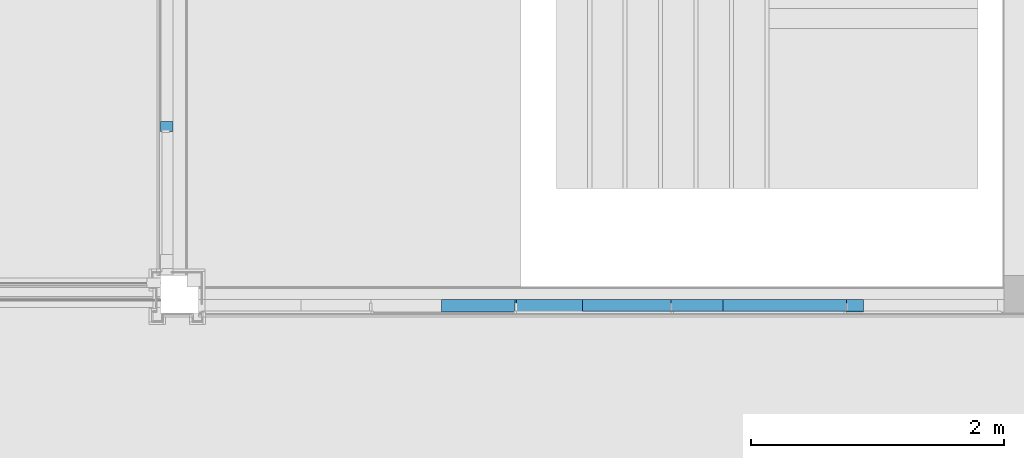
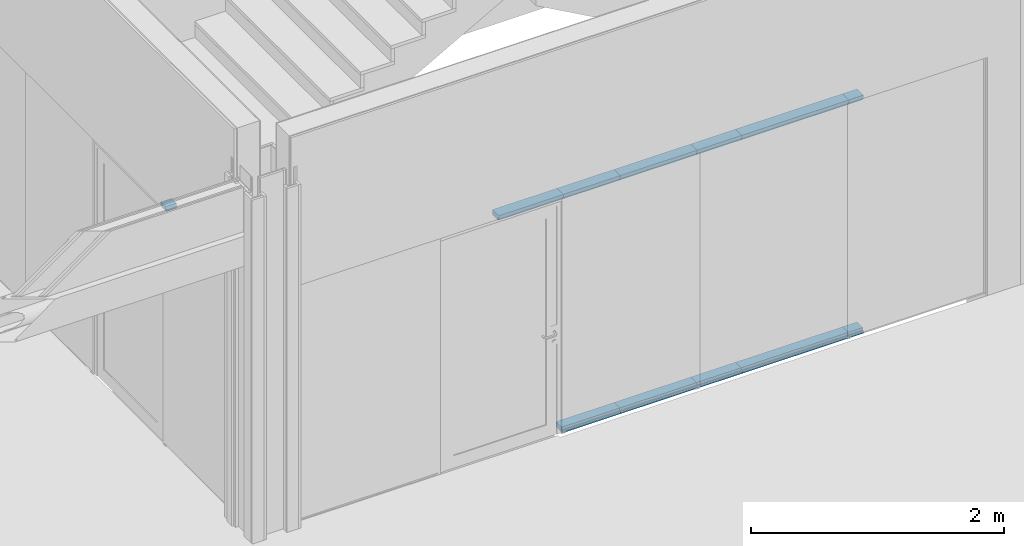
# One storey, part 47 of 139: 12 members, 2 elements without a shape of their own.
"""IFC2X3 building model written with IfcOpenShell, lengths in millimetres."""

from ifc_helpers import new_model, entity, si_unit, converted_unit, derived_unit, money_unit, direction, frame, origin_with_axes, place, context, subcontext, project, spatial, faceted_brep, material, type_object, element, aggregate, save


model = new_model("IFC2X3")

# Units and contexts
model_context = context("Model", 3, precision=0.01, world=origin_with_axes(), true_north=direction((0.0, 1.0)))
body_context = subcontext(model_context, "Body", "Model", "MODEL_VIEW")
ifc_project = project(units=[si_unit("LENGTHUNIT", "METRE", prefix="MILLI"), si_unit("AREAUNIT", "SQUARE_METRE"), si_unit("VOLUMEUNIT", "CUBIC_METRE"), converted_unit("PLANEANGLEUNIT", "DEGREE", entity("IfcPlaneAngleMeasure", 0.0174532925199), si_unit("PLANEANGLEUNIT", "RADIAN"), dimensions=[0, 0, 0, 0, 0, 0, 0]), money_unit("EUR"), converted_unit("TIMEUNIT", "Year", entity("IfcTimeMeasure", 31556926.0), si_unit("TIMEUNIT", "SECOND"), dimensions=[0, 0, 1, 0, 0, 0, 0]), si_unit("MASSUNIT", "GRAM", prefix="KILO"), si_unit("THERMODYNAMICTEMPERATUREUNIT", "DEGREE_CELSIUS"), si_unit("LUMINOUSINTENSITYUNIT", "LUMEN"), si_unit("ENERGYUNIT", "JOULE", prefix="MEGA"), derived_unit("THERMALCONDUCTANCEUNIT", [(si_unit("POWERUNIT", "WATT"), 1), (si_unit("LENGTHUNIT", "METRE"), -1), (si_unit("THERMODYNAMICTEMPERATUREUNIT", "KELVIN"), -1)]), derived_unit("SPECIFICHEATCAPACITYUNIT", [(si_unit("ENERGYUNIT", "JOULE"), 1), (si_unit("MASSUNIT", "GRAM", prefix="KILO"), -1), (si_unit("THERMODYNAMICTEMPERATUREUNIT", "KELVIN"), -1)]), derived_unit("MASSDENSITYUNIT", [(si_unit("MASSUNIT", "GRAM", prefix="KILO"), 1), (si_unit("VOLUMEUNIT", "CUBIC_METRE"), -1)])], contexts=[model_context])

# Site, building, storey
site_placement = place(None, origin_with_axes())
site = spatial("IfcSite", under=ifc_project, at=site_placement, Name="Kolde pst 67a", CompositionType="ELEMENT")
building_placement = place(site_placement, origin_with_axes())
building = spatial("IfcBuilding", under=site, at=building_placement, Name="Riigigümnaasium", CompositionType="ELEMENT")
storey_placement = place(building_placement, frame((0.0, 0.0, 4600.0), z_axis=(0.0, 0.0, 1.0), x_axis=(1.0, 0.0, 0.0)))
storey = spatial("IfcBuildingStorey", under=building, at=storey_placement, Name="2. korrus", CompositionType="ELEMENT", Elevation=4600.0)

# Curtain wall, member
curtain_wall_type = type_object("IfcCurtainWallType", Name="Curtain Wall Type", PredefinedType="NOTDEFINED")
curtain_wall_1_placement = place(storey_placement, frame((52619.9941222, 32759.7635899, -0.000120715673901), z_axis=(0.0, 0.0, 1.0), x_axis=(1.0, 0.0, 0.0)))
curtain_wall_1 = element("IfcCurtainWall", 1, at=curtain_wall_1_placement, inside=storey, type_object=curtain_wall_type, Name="KLAASSEIN")
ifc_material = material(Name="_GENEERILINE MATERJAL")
member_type = type_object("IfcMemberType", Name="Boundary Frame 50 x 100", PredefinedType="MEMBER")
member_1_placement = place(curtain_wall_1_placement, frame((0.0, -2625.0, 2300.00012072), z_axis=(0.0, -1.0, 0.0), x_axis=(0.0, 0.0, 1.0)))
member_1 = element("IfcMember", 2, at=member_1_placement, type_object=member_type, material=ifc_material, Name="RF RAAM SERV-604", ObjectType="MEMBER", context=body_context, shape_type="Brep", body=[
    faceted_brep([(-50.0, -10.0, 0.0), (-50.0, -100.0, 0.0), (-50.0, -100.0, 78.0000031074), (-50.0, -10.0, 78.0000031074), (-25.0, -10.0, 0.0), (-25.0, 0.0, 0.0), (0.0, 0.0, 0.0), (0.0, -100.0, 0.0), (0.0, -100.0, 78.0000031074), (-25.0, -10.0, 78.0000031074), (0.0, 0.0, 78.0000031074), (-25.0, 0.0, 78.0000031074)], [[[0, 1, 2, 3]], [[4, 5, 6, 7, 1, 0]], [[1, 7, 8, 2]], [[9, 3, 2, 8, 10, 11]], [[9, 4, 0, 3]], [[5, 4, 9, 11]], [[11, 10, 6, 5]], [[7, 6, 10, 8]]]),
])
aggregate(curtain_wall_1, [member_1])

# Curtain wall, members
curtain_wall_2_placement = place(storey_placement, frame((56010.5010848, 28629.9996643, -9.132059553e-06), z_axis=(0.0, 0.0, 1.0), x_axis=(1.0, 0.0, 0.0)))
curtain_wall_2 = element("IfcCurtainWall", 3, at=curtain_wall_2_placement, inside=storey, type_object=curtain_wall_type, Name="KLAASSEIN")
member_2_placement = place(curtain_wall_2_placement, frame((2026.58211334, 0.0, 0.0), z_axis=(-1.0, 0.0, 0.0), x_axis=(0.0, 0.0, 1.0)))
member_2 = element("IfcMember", 4, at=member_2_placement, type_object=member_type, material=ifc_material, Name="RF RAAM SERV-525", ObjectType="MEMBER", context=body_context, shape_type="Brep", body=[
    faceted_brep([(50.0, 10.0, 0.0), (50.0, 100.0, 0.0), (50.0, 100.0, 977.02642861), (50.0, 10.0, 977.02642861), (25.0, 10.0, 0.0), (25.0, 0.0, 0.0), (0.0, 0.0, 0.0), (0.0, 100.0, 0.0), (0.0, 100.0, 977.02642861), (25.0, 10.0, 977.02642861), (0.0, 0.0, 977.02642861), (25.0, 0.0, 977.02642861)], [[[0, 1, 2, 3]], [[4, 5, 6, 7, 1, 0]], [[1, 7, 8, 2]], [[9, 3, 2, 8, 10, 11]], [[9, 4, 0, 3]], [[5, 4, 9, 11]], [[11, 10, 6, 5]], [[7, 6, 10, 8]]]),
])
member_3_placement = place(curtain_wall_2_placement, frame((2026.58211334, 0.0, 2300.00000913), z_axis=(-1.0, 0.0, 0.0), x_axis=(0.0, 0.0, 1.0)))
member_3 = element("IfcMember", 5, at=member_3_placement, type_object=member_type, material=ifc_material, Name="RF RAAM SERV-535", ObjectType="MEMBER", context=body_context, shape_type="Brep", body=[
    faceted_brep([(-50.0, 10.0, 0.0), (-50.0, 10.0, 977.02642861), (-50.0, 100.0, 977.02642861), (-50.0, 100.0, 0.0), (-25.0, 10.0, 977.02642861), (-25.0, 10.0, 0.0), (-25.0, 0.0, 977.02642861), (0.0, 0.0, 977.02642861), (0.0, 100.0, 977.02642861), (0.0, 100.0, 0.0), (0.0, 0.0, 0.0), (-25.0, 0.0, 0.0)], [[[0, 1, 2, 3]], [[4, 1, 0, 5]], [[4, 6, 7, 8, 2, 1]], [[3, 2, 8, 9]], [[5, 0, 3, 9, 10, 11]], [[11, 6, 4, 5]], [[6, 11, 10, 7]], [[9, 8, 7, 10]]]),
])
member_4_placement = place(curtain_wall_2_placement, frame((640.963319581, 0.0, 0.0), z_axis=(-1.0, 0.0, 0.0), x_axis=(0.0, 0.0, 1.0)))
member_4 = element("IfcMember", 6, at=member_4_placement, type_object=member_type, material=ifc_material, Name="RF RAAM SERV-526", ObjectType="MEMBER", context=body_context, shape_type="Brep", body=[
    faceted_brep([(50.0, 10.0, 0.0), (50.0, 100.0, 0.0), (50.0, 100.0, 701.407634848), (50.0, 10.0, 701.407634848), (25.0, 10.0, 0.0), (25.0, 0.0, 0.0), (0.0, 0.0, 0.0), (0.0, 100.0, 0.0), (0.0, 100.0, 701.407634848), (25.0, 10.0, 701.407634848), (0.0, 0.0, 701.407634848), (25.0, 0.0, 701.407634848)], [[[0, 1, 2, 3]], [[4, 5, 6, 7, 1, 0]], [[1, 7, 8, 2]], [[9, 3, 2, 8, 10, 11]], [[9, 4, 0, 3]], [[5, 4, 9, 11]], [[11, 10, 6, 5]], [[7, 6, 10, 8]]]),
])
member_5_placement = place(curtain_wall_2_placement, frame((640.963319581, 0.0, 2300.00000913), z_axis=(-1.0, 0.0, 0.0), x_axis=(0.0, 0.0, 1.0)))
member_5 = element("IfcMember", 7, at=member_5_placement, type_object=member_type, material=ifc_material, Name="RF RAAM SERV-534", ObjectType="MEMBER", context=body_context, shape_type="Brep", body=[
    faceted_brep([(-50.0, 10.0, 0.0), (-50.0, 10.0, 701.407634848), (-50.0, 100.0, 701.407634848), (-50.0, 100.0, 0.0), (-25.0, 10.0, 701.407634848), (-25.0, 10.0, 0.0), (-25.0, 0.0, 701.407634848), (0.0, 0.0, 701.407634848), (0.0, 100.0, 701.407634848), (0.0, 100.0, 0.0), (0.0, 0.0, 0.0), (-25.0, 0.0, 0.0)], [[[0, 1, 2, 3]], [[4, 1, 0, 5]], [[4, 6, 7, 8, 2, 1]], [[3, 2, 8, 9]], [[5, 0, 3, 9, 10, 11]], [[11, 6, 4, 5]], [[6, 11, 10, 7]], [[9, 8, 7, 10]]]),
])
member_6_placement = place(curtain_wall_2_placement, frame((-580.519004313, 0.0, 2300.00000913), z_axis=(-1.0, 0.0, 0.0), x_axis=(0.0, 0.0, 1.0)))
member_6 = element("IfcMember", 8, at=member_6_placement, type_object=member_type, material=ifc_material, Name="RF RAAM SERV-533", ObjectType="MEMBER", context=body_context, shape_type="Brep", body=[
    faceted_brep([(-50.0, 10.0, 0.0), (-50.0, 10.0, 589.925310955), (-50.0, 100.0, 589.925310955), (-50.0, 100.0, 0.0), (-25.0, 10.0, 589.925310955), (-25.0, 10.0, 0.0), (-25.0, 0.0, 589.925310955), (0.0, 0.0, 589.925310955), (0.0, 100.0, 589.925310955), (0.0, 100.0, 0.0), (0.0, 0.0, 0.0), (-25.0, 0.0, 0.0)], [[[0, 1, 2, 3]], [[4, 1, 0, 5]], [[4, 6, 7, 8, 2, 1]], [[3, 2, 8, 9]], [[5, 0, 3, 9, 10, 11]], [[11, 6, 4, 5]], [[6, 11, 10, 7]], [[9, 8, 7, 10]]]),
])
member_7_placement = place(curtain_wall_2_placement, frame((-60.4443152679, 0.0, 0.0), z_axis=(-1.0, 0.0, 0.0), x_axis=(0.0, 0.0, 1.0)))
member_7 = element("IfcMember", 9, at=member_7_placement, type_object=member_type, material=ifc_material, Name="RF RAAM SERV-538", ObjectType="MEMBER", context=body_context, shape_type="Brep", body=[
    faceted_brep([(50.0, 10.0, 0.0), (50.0, 100.0, 0.0), (50.0, 100.0, 530.074689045), (50.0, 10.0, 530.074689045), (25.0, 10.0, 0.0), (25.0, 0.0, 0.0), (0.0, 0.0, 0.0), (0.0, 100.0, 0.0), (0.0, 100.0, 530.074689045), (25.0, 10.0, 530.074689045), (0.0, 0.0, 530.074689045), (25.0, 0.0, 530.074689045)], [[[0, 1, 2, 3]], [[4, 5, 6, 7, 1, 0]], [[1, 7, 8, 2]], [[9, 3, 2, 8, 10, 11]], [[9, 4, 0, 3]], [[5, 4, 9, 11]], [[11, 10, 6, 5]], [[7, 6, 10, 8]]]),
])
member_8_placement = place(curtain_wall_2_placement, frame((-60.4443152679, 0.0, 2300.00000913), z_axis=(-1.0, 0.0, 0.0), x_axis=(0.0, 0.0, 1.0)))
member_8 = element("IfcMember", 10, at=member_8_placement, type_object=member_type, material=ifc_material, Name="RF RAAM SERV-539", ObjectType="MEMBER", context=body_context, shape_type="Brep", body=[
    faceted_brep([(-50.0, 10.0, 0.0), (-50.0, 10.0, 520.074689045), (-50.0, 100.0, 520.074689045), (-50.0, 100.0, 0.0), (-25.0, 10.0, 520.074689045), (-25.0, 10.0, 0.0), (-25.0, 0.0, 520.074689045), (0.0, 0.0, 520.074689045), (0.0, 100.0, 520.074689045), (0.0, 100.0, 0.0), (0.0, 0.0, 0.0), (-25.0, 0.0, 0.0)], [[[0, 1, 2, 3]], [[4, 1, 0, 5]], [[4, 6, 7, 8, 2, 1]], [[3, 2, 8, 9]], [[5, 0, 3, 9, 10, 11]], [[11, 6, 4, 5]], [[6, 11, 10, 7]], [[9, 8, 7, 10]]]),
])
member_9_placement = place(curtain_wall_2_placement, frame((2159.55568473, 0.0, 0.0), z_axis=(-1.0, 0.0, 0.0), x_axis=(0.0, 0.0, 1.0)))
member_9 = element("IfcMember", 11, at=member_9_placement, type_object=member_type, material=ifc_material, Name="RF RAAM SERV-550", ObjectType="MEMBER", context=body_context, shape_type="Brep", body=[
    faceted_brep([(50.0, 10.0, 0.0), (50.0, 100.0, 0.0), (50.0, 100.0, 132.97357139), (50.0, 10.0, 132.97357139), (25.0, 10.0, 0.0), (25.0, 0.0, 0.0), (0.0, 0.0, 0.0), (0.0, 100.0, 0.0), (0.0, 100.0, 132.97357139), (25.0, 10.0, 132.97357139), (0.0, 0.0, 132.97357139), (25.0, 0.0, 132.97357139)], [[[0, 1, 2, 3]], [[4, 5, 6, 7, 1, 0]], [[1, 7, 8, 2]], [[9, 3, 2, 8, 10, 11]], [[9, 4, 0, 3]], [[5, 4, 9, 11]], [[11, 10, 6, 5]], [[7, 6, 10, 8]]]),
])
member_10_placement = place(curtain_wall_2_placement, frame((2159.55568473, 0.0, 2300.00000913), z_axis=(-1.0, 0.0, 0.0), x_axis=(0.0, 0.0, 1.0)))
member_10 = element("IfcMember", 12, at=member_10_placement, type_object=member_type, material=ifc_material, Name="RF RAAM SERV-551", ObjectType="MEMBER", context=body_context, shape_type="Brep", body=[
    faceted_brep([(-50.0, 10.0, 0.0), (-50.0, 10.0, 132.97357139), (-50.0, 100.0, 132.97357139), (-50.0, 100.0, 0.0), (-25.0, 10.0, 132.97357139), (-25.0, 10.0, 0.0), (-25.0, 0.0, 132.97357139), (0.0, 0.0, 132.97357139), (0.0, 100.0, 132.97357139), (0.0, 100.0, 0.0), (0.0, 0.0, 0.0), (-25.0, 0.0, 0.0)], [[[0, 1, 2, 3]], [[4, 1, 0, 5]], [[4, 6, 7, 8, 2, 1]], [[3, 2, 8, 9]], [[5, 0, 3, 9, 10, 11]], [[11, 6, 4, 5]], [[6, 11, 10, 7]], [[9, 8, 7, 10]]]),
])
member_11_placement = place(curtain_wall_2_placement, frame((1049.55568473, 0.0, 0.0), z_axis=(-1.0, 0.0, 0.0), x_axis=(0.0, 0.0, 1.0)))
member_11 = element("IfcMember", 13, at=member_11_placement, type_object=member_type, material=ifc_material, Name="RF RAAM SERV-552", ObjectType="MEMBER", context=body_context, shape_type="Brep", body=[
    faceted_brep([(50.0, 10.0, 0.0), (50.0, 100.0, 0.0), (50.0, 100.0, 408.592365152), (50.0, 10.0, 408.592365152), (25.0, 10.0, 0.0), (25.0, 0.0, 0.0), (0.0, 0.0, 0.0), (0.0, 100.0, 0.0), (0.0, 100.0, 408.592365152), (25.0, 10.0, 408.592365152), (0.0, 0.0, 408.592365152), (25.0, 0.0, 408.592365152)], [[[0, 1, 2, 3]], [[4, 5, 6, 7, 1, 0]], [[1, 7, 8, 2]], [[9, 3, 2, 8, 10, 11]], [[9, 4, 0, 3]], [[5, 4, 9, 11]], [[11, 10, 6, 5]], [[7, 6, 10, 8]]]),
])
member_12_placement = place(curtain_wall_2_placement, frame((1049.55568473, 0.0, 2300.00000913), z_axis=(-1.0, 0.0, 0.0), x_axis=(0.0, 0.0, 1.0)))
member_12 = element("IfcMember", 14, at=member_12_placement, type_object=member_type, material=ifc_material, Name="RF RAAM SERV-553", ObjectType="MEMBER", context=body_context, shape_type="Brep", body=[
    faceted_brep([(-50.0, 10.0, 0.0), (-50.0, 10.0, 408.592365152), (-50.0, 100.0, 408.592365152), (-50.0, 100.0, 0.0), (-25.0, 10.0, 408.592365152), (-25.0, 10.0, 0.0), (-25.0, 0.0, 408.592365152), (0.0, 0.0, 408.592365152), (0.0, 100.0, 408.592365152), (0.0, 100.0, 0.0), (0.0, 0.0, 0.0), (-25.0, 0.0, 0.0)], [[[0, 1, 2, 3]], [[4, 1, 0, 5]], [[4, 6, 7, 8, 2, 1]], [[3, 2, 8, 9]], [[5, 0, 3, 9, 10, 11]], [[11, 6, 4, 5]], [[6, 11, 10, 7]], [[9, 8, 7, 10]]]),
])
aggregate(curtain_wall_2, [member_2, member_3, member_4, member_5, member_6, member_7, member_8, member_9, member_10, member_11, member_12])

save(model, "model.ifc")
